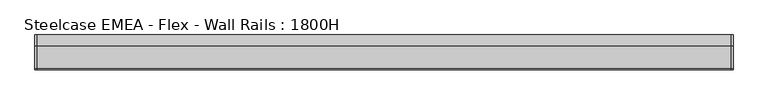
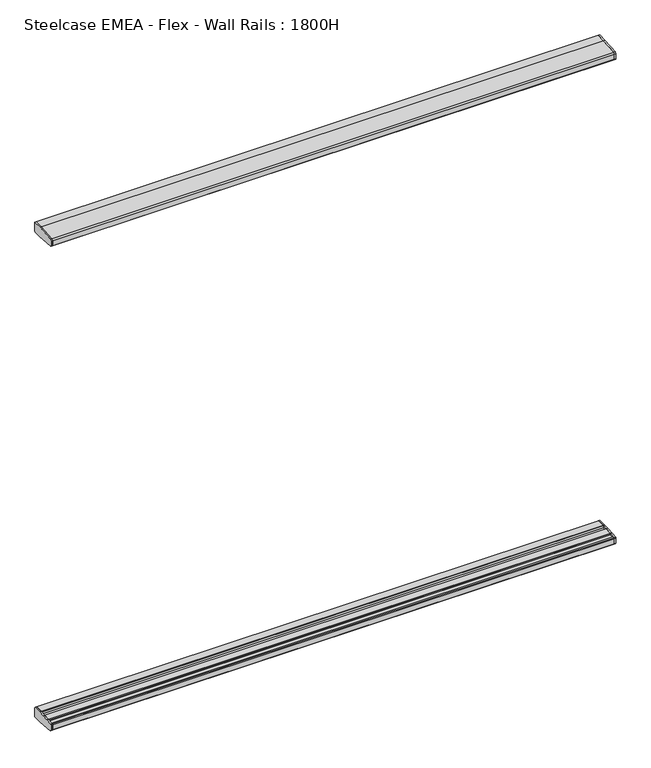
"""IFC4 building model written with IfcOpenShell, lengths in millimetres: furniture geometry, Steelcase EMEA - Flex - Wall Rails : 1800H."""

from ifc_helpers import new_model, si_unit, frame, origin, place, context, project, spatial, polyline, outline, extrude, source, transform, mapped, element, save


def steelcase_emea_flex_wall_rails_1800h_6c3f3ac9(model_context):
    return source(origin(), model_context, "Body", "SweptSolid", [
        extrude(outline(polyline([(-29.748384, 494.399958), (-2.0015978, 494.399958), (0.0, 492.39833), (0.0, 457.2), (-31.7483991, 457.2), (-95.5653908, 462.6914284), (-99.9999601, 467.5239814), (-99.9999601, 486.7480995), (-98.0172056, 488.9021347), (-73.1435844, 490.9657693), (-50.3978144, 493.0470375), (-29.748384, 494.399958)])), frame((1999.6487351, 0.0, 0.0), z_axis=(1.0, 0.0, 0.0), x_axis=(0.0, 1.0, 0.0)), (0.0, 0.0, 1.0), 5.0),
        extrude(outline(polyline([(-29.748384, 2275.5875964), (-50.3978144, 2276.9405169), (-73.1435844, 2279.0217851), (-98.0172056, 2281.0854198), (-99.9999601, 2283.239455), (-99.9999601, 2302.4635731), (-95.5653908, 2307.2961261), (-31.7483991, 2312.7875545), (0.0, 2312.7875545), (0.0, 2277.5892245), (-2.0015978, 2275.5875964), (-29.748384, 2275.5875964)])), frame((1999.6487351, 0.0, 0.0), z_axis=(1.0, 0.0, 0.0), x_axis=(0.0, 1.0, 0.0)), (0.0, 0.0, 1.0), 5.0),
        extrude(outline(polyline([(-29.748384, 494.399958), (-2.0015978, 494.399958), (0.0, 492.39833), (0.0, 457.2), (-31.7483991, 457.2), (-95.5653908, 462.6914284), (-99.9999601, 467.5239814), (-99.9999601, 486.7480995), (-98.0172056, 488.9021347), (-73.1435844, 490.9657693), (-50.3978144, 493.0470375), (-29.748384, 494.399958)])), frame((0.0, 0.0, 0.0), z_axis=(1.0, 0.0, 0.0), x_axis=(0.0, 1.0, 0.0)), (0.0, 0.0, 1.0), 5.0),
        extrude(outline(polyline([(-29.748384, 2275.5875964), (-50.3978144, 2276.9405169), (-73.1435844, 2279.0217851), (-98.0172056, 2281.0854198), (-99.9999601, 2283.239455), (-99.9999601, 2302.4635731), (-95.5653908, 2307.2961261), (-31.7483991, 2312.7875545), (0.0, 2312.7875545), (0.0, 2277.5892245), (-2.0015978, 2275.5875964), (-29.748384, 2275.5875964)])), frame((0.0, 0.0, 0.0), z_axis=(1.0, 0.0, 0.0), x_axis=(0.0, 1.0, 0.0)), (0.0, 0.0, 1.0), 5.0),
        extrude(outline(polyline([(0.0, 492.39833), (0.0, 457.2), (-31.7483991, 457.2), (-95.5653908, 462.6914284), (-99.9999606, 467.5239822), (-99.9999598, 486.7480995), (-98.0172056, 488.9021347), (-93.9826847, 489.2368579), (-91.9999743, 487.4118187), (-91.9999735, 484.9937772), (-75.1383227, 484.9937772), (-75.1383233, 488.7986526), (-73.1435844, 490.9657693), (-50.3978144, 493.0470375), (-48.4030258, 491.016882), (-48.4030258, 484.9937772), (-31.7499758, 484.9937772), (-31.7499758, 492.398336), (-29.748384, 494.399958), (-2.0015978, 494.399958), (0.0, 492.39833)])), frame((5.0, 0.0, 0.0), z_axis=(1.0, 0.0, 0.0), x_axis=(0.0, 1.0, 0.0)), (0.0, 0.0, 1.0), 1994.6487351),
        extrude(outline(polyline([(0.0, 2277.5892245), (-2.0015978, 2275.5875964), (-29.748384, 2275.5875964), (-31.7499758, 2277.5892185), (-31.7499758, 2284.9937772), (-48.4030258, 2284.9937772), (-48.4030258, 2278.9706725), (-50.3978144, 2276.9405169), (-73.1435844, 2279.0217851), (-75.1383233, 2281.1889019), (-75.1383227, 2284.9937772), (-91.9999735, 2284.9937772), (-91.9999743, 2282.5757358), (-93.9826847, 2280.7506966), (-98.0172056, 2281.0854198), (-99.9999601, 2283.2394553), (-99.9999601, 2302.4635728), (-95.5653908, 2307.2961261), (-31.7483991, 2312.7875545), (0.0, 2312.7875545), (0.0, 2277.5892245)])), frame((5.0, 0.0, 0.0), z_axis=(1.0, 0.0, 0.0), x_axis=(0.0, 1.0, 0.0)), (0.0, 0.0, 1.0), 1994.6487351),
    ])


if __name__ == "__main__":
    model = new_model("IFC4")
    model_context = context("Model", 3, world=origin())
    ifc_project = project(units=[si_unit("LENGTHUNIT", "METRE", prefix="MILLI")], contexts=[model_context])
    site = spatial("IfcSite", under=ifc_project)
    building = spatial("IfcBuilding", under=site)
    placement = place(None, origin())
    steelcase_emea_flex_wall_rails_1800h_shape = steelcase_emea_flex_wall_rails_1800h_6c3f3ac9(model_context)
    element("IfcFurniture", 1, ObjectType="Steelcase EMEA - Flex - Wall Rails : 1800H", at=placement, inside=building, context=model_context, shape_type="MappedRepresentation", body=[
        mapped(steelcase_emea_flex_wall_rails_1800h_shape, transform((0.0, 0.0, 0.0), x_axis=(1.0, 0.0, 0.0), y_axis=(0.0, 1.0, 0.0), z_axis=(0.0, 0.0, 1.0))),
    ])
    save(model, "model.ifc")
